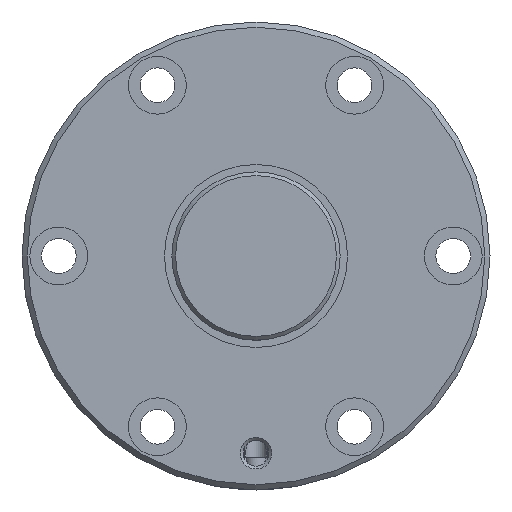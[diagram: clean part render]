
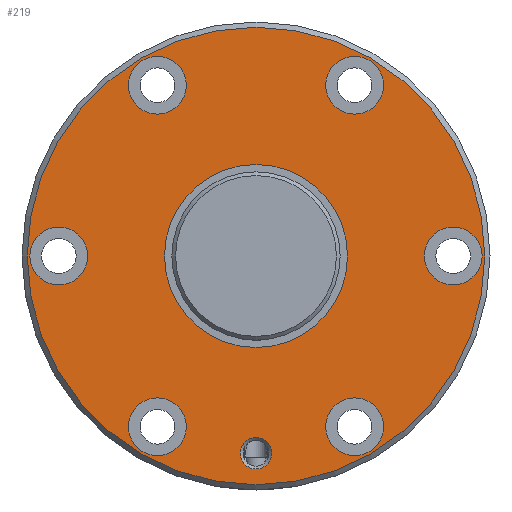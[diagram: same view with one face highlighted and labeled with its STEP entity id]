
A CAD part, left-side view. The second image highlights one B-rep face of the part: STEP entity #219.
In plain terms, the highlighted planar face has unit normal (-1, 0, 0).
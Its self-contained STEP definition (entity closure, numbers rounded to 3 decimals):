
#219 = ADVANCED_FACE( '', ( #390, #391, #392, #393, #394, #395, #396, #397, #398 ), #399, .T. );
#390 = FACE_BOUND( '', #629, .T. );
#391 = FACE_BOUND( '', #630, .T. );
#392 = FACE_BOUND( '', #631, .T. );
#393 = FACE_BOUND( '', #632, .T. );
#394 = FACE_BOUND( '', #633, .T. );
#395 = FACE_BOUND( '', #634, .T. );
#396 = FACE_BOUND( '', #635, .T. );
#397 = FACE_BOUND( '', #636, .T. );
#398 = FACE_OUTER_BOUND( '', #637, .T. );
#399 = PLANE( '', #638 );
#629 = EDGE_LOOP( '', ( #1059 ) );
#630 = EDGE_LOOP( '', ( #1060 ) );
#631 = EDGE_LOOP( '', ( #1061 ) );
#632 = EDGE_LOOP( '', ( #1062 ) );
#633 = EDGE_LOOP( '', ( #1063 ) );
#634 = EDGE_LOOP( '', ( #1064 ) );
#635 = EDGE_LOOP( '', ( #1065 ) );
#636 = EDGE_LOOP( '', ( #1066 ) );
#637 = EDGE_LOOP( '', ( #1067 ) );
#638 = AXIS2_PLACEMENT_3D( '', #1068, #1069, #1070 );
#1059 = ORIENTED_EDGE( '', *, *, #1342, .T. );
#1060 = ORIENTED_EDGE( '', *, *, #1343, .T. );
#1061 = ORIENTED_EDGE( '', *, *, #1265, .T. );
#1062 = ORIENTED_EDGE( '', *, *, #1341, .T. );
#1063 = ORIENTED_EDGE( '', *, *, #1344, .T. );
#1064 = ORIENTED_EDGE( '', *, *, #1345, .T. );
#1065 = ORIENTED_EDGE( '', *, *, #1346, .T. );
#1066 = ORIENTED_EDGE( '', *, *, #1347, .T. );
#1067 = ORIENTED_EDGE( '', *, *, #1348, .F. );
#1068 = CARTESIAN_POINT( '', ( 0., 43.5, 0. ) );
#1069 = DIRECTION( '', ( -1., 0., 0. ) );
#1070 = DIRECTION( '', ( 0., 0., 1. ) );
#1265 = EDGE_CURVE( '', #1419, #1419, #1420, .T. );
#1341 = EDGE_CURVE( '', #1549, #1549, #1550, .T. );
#1342 = EDGE_CURVE( '', #1551, #1551, #1552, .T. );
#1343 = EDGE_CURVE( '', #1553, #1553, #1554, .F. );
#1344 = EDGE_CURVE( '', #1555, #1555, #1556, .T. );
#1345 = EDGE_CURVE( '', #1557, #1557, #1558, .T. );
#1346 = EDGE_CURVE( '', #1559, #1559, #1560, .T. );
#1347 = EDGE_CURVE( '', #1561, #1561, #1562, .T. );
#1348 = EDGE_CURVE( '', #1563, #1563, #1564, .T. );
#1419 = VERTEX_POINT( '', #1764 );
#1420 = CIRCLE( '', #1765, 3. );
#1549 = VERTEX_POINT( '', #2146 );
#1550 = CIRCLE( '', #2147, 5.5 );
#1551 = VERTEX_POINT( '', #2148 );
#1552 = CIRCLE( '', #2149, 17.4 );
#1553 = VERTEX_POINT( '', #2150 );
#1554 = CIRCLE( '', #2151, 5.5 );
#1555 = VERTEX_POINT( '', #2152 );
#1556 = CIRCLE( '', #2153, 5.5 );
#1557 = VERTEX_POINT( '', #2154 );
#1558 = CIRCLE( '', #2155, 5.5 );
#1559 = VERTEX_POINT( '', #2156 );
#1560 = CIRCLE( '', #2157, 5.5 );
#1561 = VERTEX_POINT( '', #2158 );
#1562 = CIRCLE( '', #2159, 5.5 );
#1563 = VERTEX_POINT( '', #2160 );
#1564 = CIRCLE( '', #2161, 43.5 );
#1764 = CARTESIAN_POINT( '', ( 0., 0., -40.5 ) );
#1765 = AXIS2_PLACEMENT_3D( '', #2317, #2318, #2319 );
#2146 = CARTESIAN_POINT( '', ( 0., 18.75, 26.976 ) );
#2147 = AXIS2_PLACEMENT_3D( '', #2469, #2470, #2471 );
#2148 = CARTESIAN_POINT( '', ( 0., 0., -17.4 ) );
#2149 = AXIS2_PLACEMENT_3D( '', #2472, #2473, #2474 );
#2150 = CARTESIAN_POINT( '', ( 0., 37.5, 5.5 ) );
#2151 = AXIS2_PLACEMENT_3D( '', #2475, #2476, #2477 );
#2152 = CARTESIAN_POINT( '', ( 0., -18.75, -37.976 ) );
#2153 = AXIS2_PLACEMENT_3D( '', #2478, #2479, #2480 );
#2154 = CARTESIAN_POINT( '', ( 0., -18.75, 26.976 ) );
#2155 = AXIS2_PLACEMENT_3D( '', #2481, #2482, #2483 );
#2156 = CARTESIAN_POINT( '', ( 0., 18.75, -37.976 ) );
#2157 = AXIS2_PLACEMENT_3D( '', #2484, #2485, #2486 );
#2158 = CARTESIAN_POINT( '', ( 0., -37.5, -5.5 ) );
#2159 = AXIS2_PLACEMENT_3D( '', #2487, #2488, #2489 );
#2160 = CARTESIAN_POINT( '', ( 0., 0., -43.5 ) );
#2161 = AXIS2_PLACEMENT_3D( '', #2490, #2491, #2492 );
#2317 = CARTESIAN_POINT( '', ( 0., 0., -37.5 ) );
#2318 = DIRECTION( '', ( 1., 0., 0. ) );
#2319 = DIRECTION( '', ( 0., 0., -1. ) );
#2469 = CARTESIAN_POINT( '', ( 0., 18.75, 32.476 ) );
#2470 = DIRECTION( '', ( 1., 0., 0. ) );
#2471 = DIRECTION( '', ( 0., 0., -1. ) );
#2472 = CARTESIAN_POINT( '', ( 0., 0., 0. ) );
#2473 = DIRECTION( '', ( 1., 0., 0. ) );
#2474 = DIRECTION( '', ( 0., 0., -1. ) );
#2475 = CARTESIAN_POINT( '', ( 0., 37.5, 0. ) );
#2476 = DIRECTION( '', ( -1., 0., 0. ) );
#2477 = DIRECTION( '', ( 0., 0., 1. ) );
#2478 = CARTESIAN_POINT( '', ( 0., -18.75, -32.476 ) );
#2479 = DIRECTION( '', ( 1., 0., 0. ) );
#2480 = DIRECTION( '', ( 0., 0., -1. ) );
#2481 = CARTESIAN_POINT( '', ( 0., -18.75, 32.476 ) );
#2482 = DIRECTION( '', ( 1., 0., 0. ) );
#2483 = DIRECTION( '', ( 0., 0., -1. ) );
#2484 = CARTESIAN_POINT( '', ( 0., 18.75, -32.476 ) );
#2485 = DIRECTION( '', ( 1., 0., 0. ) );
#2486 = DIRECTION( '', ( 0., 0., -1. ) );
#2487 = CARTESIAN_POINT( '', ( 0., -37.5, 0. ) );
#2488 = DIRECTION( '', ( 1., 0., 0. ) );
#2489 = DIRECTION( '', ( 0., 0., -1. ) );
#2490 = CARTESIAN_POINT( '', ( 0., 0., 0. ) );
#2491 = DIRECTION( '', ( 1., 0., 0. ) );
#2492 = DIRECTION( '', ( 0., 0., -1. ) );
